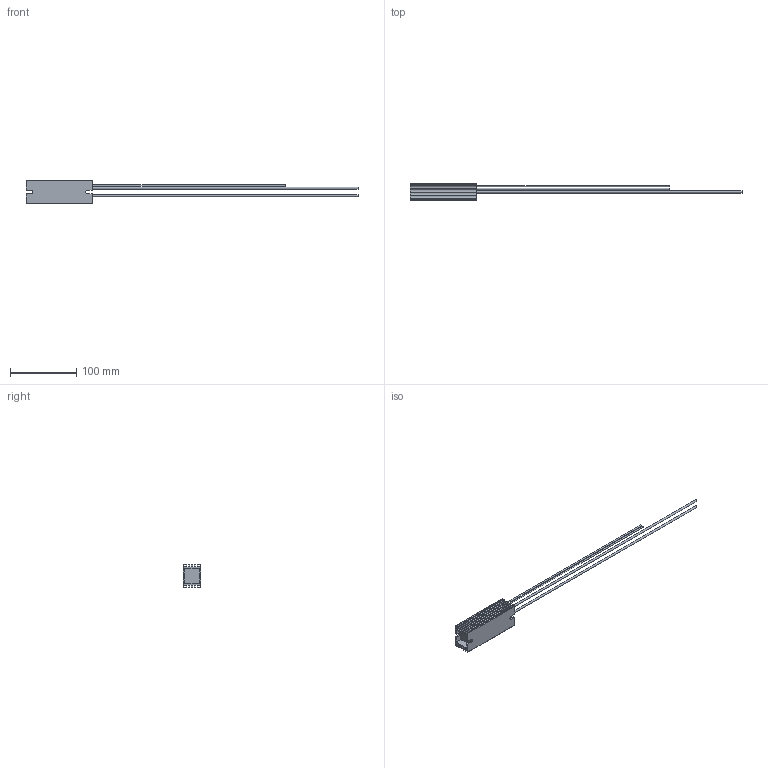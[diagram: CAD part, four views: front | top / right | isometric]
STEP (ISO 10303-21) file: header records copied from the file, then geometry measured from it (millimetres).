
FILE_DESCRIPTION(/* description */ (''),/* implementation_level */ '2;1');
FILE_NAME(/* name */ 'C:\_Vault\Dati\CATALOGO\RFZC\3D\RFZTC100.stp',/* time_stamp */ '2014-03-27T17:44:42+01:00',/* author */ ('stefano'),/* organization */ (''),/* preprocessor_version */ 'ST-DEVELOPER v15.2',/* originating_system */ 'Autodesk Inventor 2014',/* authorisation */ '');
FILE_SCHEMA (('AUTOMOTIVE_DESIGN { 1 0 10303 214 3 1 1 }'));
Length unit declared in the file: millimetre
Products named in the file (1): RFZTC100
Bounding box: 500 x 27 x 36 mm (x, y, z)
Volume: 82506.3 mm3; surface area: 35426.5 mm2
Topology: 1 solids, 1 shells, 98 faces, 268 edges, 176 vertices
Faces by surface type: plane 72, cylinder 26
Full cylindrical faces by diameter (mm): 2 x2, 3 x2
Entity records: 3215 total; most frequent: CARTESIAN_POINT 539, ORIENTED_EDGE 528, DIRECTION 522, EDGE_CURVE 264, LINE 204, VECTOR 204, VERTEX_POINT 176, AXIS2_PLACEMENT_3D 159
